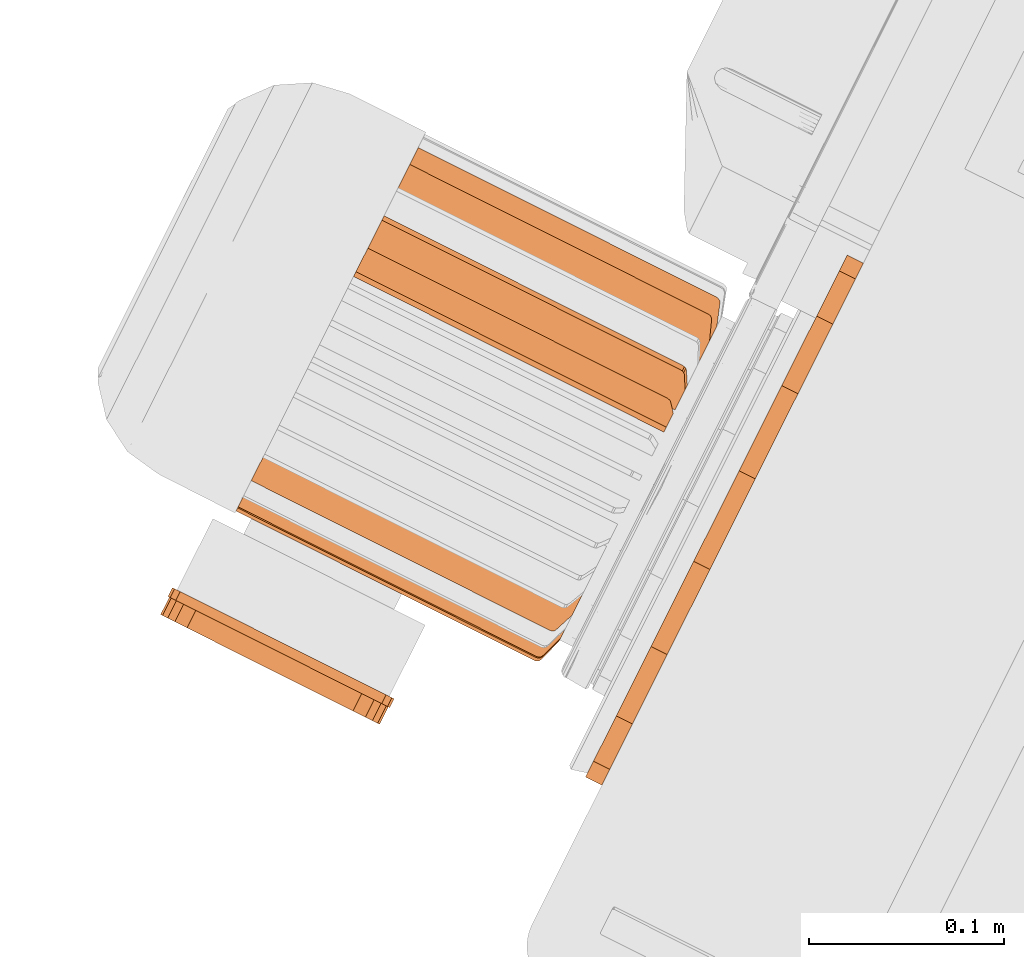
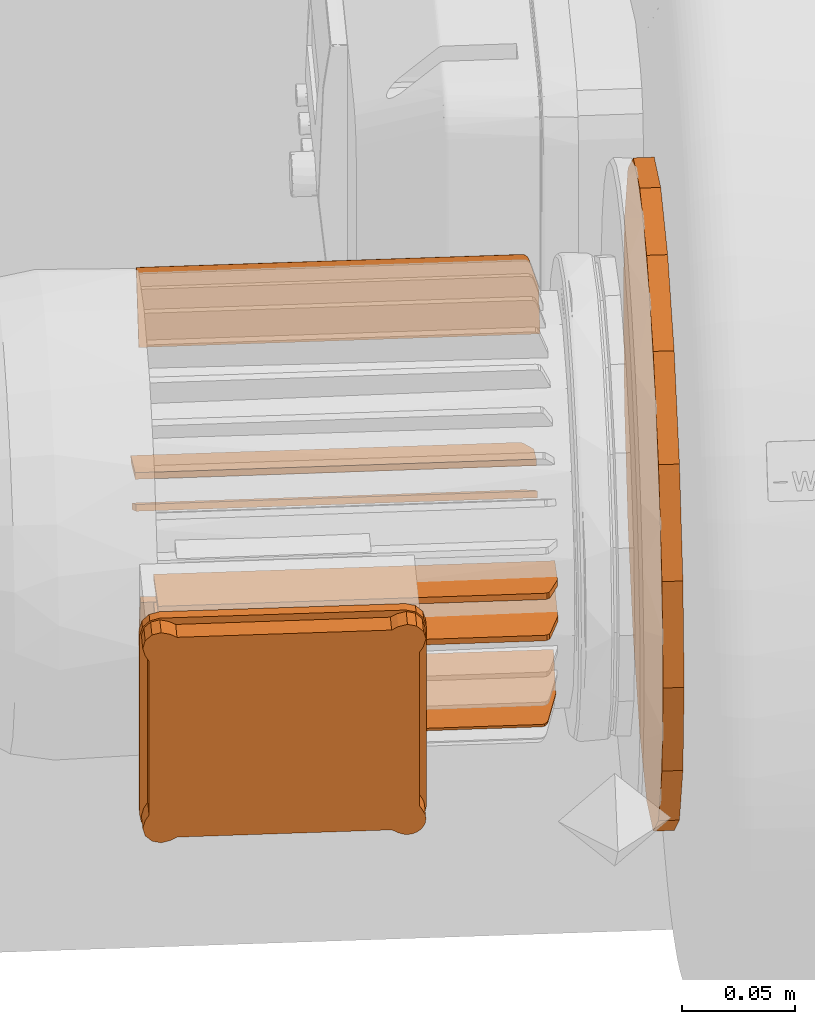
# One storey, part 180 of 206: 10 proxies.
"""IFC2X3 building model written with IfcOpenShell, lengths in metres."""

from ifc_helpers import new_model, si_unit, derived_unit, direction, frame, origin, place, context, subcontext, project, spatial, faceted_brep, source, transform, mapped, material, type_object, type_shapes, element, save


model = new_model("IFC2X3")

# Units and contexts
model_context = context("Model", 3, precision=5.2338327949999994e-05, world=origin(), true_north=direction((0.0, 1.0)))
body_context = subcontext(model_context, "Body", "Model", "MODEL_VIEW")
ifc_project = project(units=[si_unit("LENGTHUNIT", "METRE"), si_unit("AREAUNIT", "SQUARE_METRE"), si_unit("VOLUMEUNIT", "CUBIC_METRE"), si_unit("MASSUNIT", "GRAM", prefix="KILO"), si_unit("PLANEANGLEUNIT", "RADIAN"), derived_unit("THERMALTRANSMITTANCEUNIT", [(si_unit("MASSUNIT", "GRAM", prefix="KILO"), 1), (si_unit("THERMODYNAMICTEMPERATUREUNIT", "KELVIN"), -1), (si_unit("TIMEUNIT", "SECOND"), -3)])], contexts=[model_context])

# Site, building, storey
site_placement = place(None, frame((0.0, 0.0, 0.0), z_axis=(0.0, 0.0, 1.0), x_axis=(0.8939966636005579, -0.4480736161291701, 0.0)))
site = spatial("IfcSite", under=ifc_project, at=site_placement, Name="Default", CompositionType="ELEMENT")
building_placement = place(site_placement, origin())
building = spatial("IfcBuilding", under=site, at=building_placement, CompositionType="ELEMENT")
storey_placement = place(building_placement, origin())
storey = spatial("IfcBuildingStorey", under=building, at=storey_placement, Name="Erdgeschoss", CompositionType="ELEMENT", Elevation=0.0)

# Proxies
ifc_material_1 = material(Name="IfcSurfaceStyle #623543")
building_element_proxy_type_1 = type_object("IfcBuildingElementProxyType", Name="BuildingElementProxy 90:BuildingElementProxy 90", PredefinedType="NOTDEFINED", material=ifc_material_1)
shared_shape_1 = source(origin(), body_context, "Body", "Brep", [
    faceted_brep([(21.308483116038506, 4.126495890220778, 0.6885000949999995), (21.308483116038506, 4.10553544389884, 0.6885000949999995), (21.308483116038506, 4.126495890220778, 0.6855000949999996), (21.308483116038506, 4.10553544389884, 0.6855000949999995), (21.304532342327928, 4.09321407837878, 0.688500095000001), (21.301675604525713, 4.0911300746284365, 0.6885000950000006), (21.130911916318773, 4.126495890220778, 0.6885000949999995), (21.130911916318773, 4.0911300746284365, 0.6885000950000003), (21.302899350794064, 4.091391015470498, 0.6885000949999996), (21.303910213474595, 4.0921284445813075, 0.6885000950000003), (21.130911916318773, 4.126495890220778, 0.6855000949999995), (21.130911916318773, 4.0911300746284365, 0.6855000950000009), (21.301675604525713, 4.091130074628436, 0.6855000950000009), (21.302899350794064, 4.091391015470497, 0.685500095), (21.303910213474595, 4.0921284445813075, 0.6855000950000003), (21.304532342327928, 4.0932140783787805, 0.6855000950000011)], [[[0, 1, 2]], [[2, 1, 3]], [[4, 1, 5]], [[5, 1, 0]], [[5, 0, 6]], [[6, 7, 5]], [[5, 8, 4]], [[4, 8, 9]], [[0, 2, 6]], [[6, 2, 10]], [[7, 6, 11]], [[11, 6, 10]], [[7, 11, 5]], [[5, 11, 12]], [[12, 13, 5]], [[5, 13, 8]], [[13, 14, 8]], [[8, 14, 9]], [[14, 15, 9]], [[9, 15, 4]], [[3, 1, 15]], [[15, 1, 4]], [[10, 2, 12]], [[12, 2, 3]], [[12, 3, 15]], [[14, 13, 15]], [[15, 13, 12]], [[12, 11, 10]]]),
])
type_shapes(building_element_proxy_type_1, [shared_shape_1])
proxy_1_placement = place(storey_placement, origin())
element("IfcBuildingElementProxy", 1, at=proxy_1_placement, inside=storey, type_object=building_element_proxy_type_1, material=ifc_material_1, Name="BuildingElementProxy 90", context=body_context, shape_type="MappedRepresentation", body=[
    mapped(shared_shape_1, transform((0.0, 0.0, 0.0), scale=1.0)),
])
building_element_proxy_type_2 = type_object("IfcBuildingElementProxyType", Name="BuildingElementProxy 94:BuildingElementProxy 94", PredefinedType="NOTDEFINED", material=ifc_material_1)
shared_shape_2 = source(origin(), body_context, "Body", "Brep", [
    faceted_brep([(21.233208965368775, 4.026458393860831, 0.7411882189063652), (21.233208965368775, 4.0364583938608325, 0.7411882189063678), (21.230272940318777, 4.026458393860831, 0.7394931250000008), (21.230272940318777, 4.03645839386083, 0.7394931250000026), (21.23728758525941, 4.026458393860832, 0.7422810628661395), (21.23728758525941, 4.036458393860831, 0.7422810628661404), (21.24136619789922, 4.026458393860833, 0.7411881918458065), (21.241366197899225, 4.036458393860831, 0.7411881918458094), (21.24435195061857, 4.026458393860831, 0.7382024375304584), (21.244351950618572, 4.03645839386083, 0.7382024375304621), (21.24544481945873, 4.026458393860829, 0.7341238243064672), (21.24544481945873, 4.0364583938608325, 0.7341238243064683), (21.24435197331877, 4.026458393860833, 0.7300452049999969), (21.24435197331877, 4.036458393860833, 0.7300452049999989), (21.242656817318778, 4.026458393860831, 0.727109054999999), (21.242656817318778, 4.03645839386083, 0.7271090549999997), (21.242656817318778, 4.026458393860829, 0.6441384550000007), (21.242656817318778, 4.03645839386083, 0.6441384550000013), (21.24435197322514, 4.026458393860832, 0.6412024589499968), (21.244351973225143, 4.036458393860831, 0.6412024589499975), (21.24516691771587, 4.026458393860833, 0.6392350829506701), (21.24516691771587, 4.0364583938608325, 0.6392350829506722), (21.245444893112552, 4.026458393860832, 0.6371238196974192), (21.245444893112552, 4.036458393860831, 0.6371238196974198), (21.2451669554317, 4.026458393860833, 0.6350125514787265), (21.245166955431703, 4.0364583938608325, 0.6350125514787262), (21.244352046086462, 4.03645839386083, 0.6330451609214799), (21.24435204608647, 4.026458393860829, 0.6330451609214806), (21.24305570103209, 4.026458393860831, 0.6313557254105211), (21.24305570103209, 4.036458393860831, 0.6313557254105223), (21.241366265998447, 4.026458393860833, 0.6300593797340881), (21.241366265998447, 4.036458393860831, 0.6300593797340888), (21.239398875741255, 4.036458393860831, 0.6292444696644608), (21.239398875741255, 4.026458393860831, 0.6292444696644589), (21.237287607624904, 4.026458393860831, 0.6289665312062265), (21.237287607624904, 4.036458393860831, 0.6289665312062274), (21.235176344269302, 4.026458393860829, 0.6292445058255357), (21.235176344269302, 4.036458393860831, 0.6292445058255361), (21.233208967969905, 4.026458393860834, 0.6300594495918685), (21.233208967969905, 4.036458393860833, 0.6300594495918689), (21.23027288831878, 4.026458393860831, 0.6317545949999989), (21.23027288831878, 4.036458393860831, 0.6317545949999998), (21.135302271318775, 4.026458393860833, 0.6317545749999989), (21.135302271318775, 4.036458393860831, 0.6317545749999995), (21.132366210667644, 4.026458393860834, 0.63005944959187), (21.132366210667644, 4.036458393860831, 0.6300594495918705), (21.12828759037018, 4.026458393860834, 0.6289665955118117), (21.128287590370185, 4.036458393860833, 0.6289665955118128), (21.124208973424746, 4.026458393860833, 0.6300594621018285), (21.12420897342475, 4.0364583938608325, 0.6300594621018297), (21.12122321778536, 4.026458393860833, 0.6330452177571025), (21.12122321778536, 4.036458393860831, 0.6330452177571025), (21.120130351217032, 4.026458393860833, 0.6371238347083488), (21.12013035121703, 4.036458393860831, 0.6371238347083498), (21.121223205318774, 4.026458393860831, 0.6412024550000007), (21.121223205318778, 4.03645839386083, 0.6412024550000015), (21.12291835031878, 4.026458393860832, 0.644138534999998), (21.12291835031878, 4.036458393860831, 0.6441385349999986), (21.12291835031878, 4.026458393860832, 0.7271091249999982), (21.12291835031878, 4.036458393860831, 0.7271091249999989), (21.12122320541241, 4.026458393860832, 0.7300452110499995), (21.12122320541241, 4.0364583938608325, 0.7300452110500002), (21.120130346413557, 4.026458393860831, 0.7341238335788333), (21.12013034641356, 4.036458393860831, 0.734123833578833), (21.12122321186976, 4.026458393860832, 0.7382024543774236), (21.121223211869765, 4.036458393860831, 0.7382024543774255), (21.12420896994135, 4.026458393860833, 0.7411882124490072), (21.124208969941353, 4.0364583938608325, 0.7411882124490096), (21.12828759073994, 4.026458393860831, 0.7422810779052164), (21.128287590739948, 4.036458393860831, 0.7422810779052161), (21.132366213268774, 4.026458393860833, 0.7411882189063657), (21.132366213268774, 4.036458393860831, 0.7411882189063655), (21.135302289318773, 4.026458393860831, 0.7394930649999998), (21.135302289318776, 4.036458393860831, 0.7394930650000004)], [[[0, 1, 2]], [[2, 1, 3]], [[0, 4, 1]], [[1, 4, 5]], [[4, 6, 5]], [[5, 6, 7]], [[6, 8, 7]], [[7, 8, 9]], [[8, 10, 9]], [[9, 10, 11]], [[10, 12, 11]], [[11, 12, 13]], [[14, 15, 12]], [[12, 15, 13]], [[16, 17, 14]], [[14, 17, 15]], [[18, 19, 16]], [[16, 19, 17]], [[18, 20, 19]], [[19, 20, 21]], [[20, 22, 21]], [[21, 22, 23]], [[22, 24, 23]], [[23, 24, 25]], [[25, 24, 26]], [[26, 24, 27]], [[26, 27, 28]], [[26, 28, 29]], [[29, 28, 30]], [[29, 30, 31]], [[31, 30, 32]], [[30, 33, 32]], [[32, 33, 34]], [[32, 34, 35]], [[35, 34, 36]], [[35, 36, 37]], [[37, 36, 38]], [[37, 38, 39]], [[40, 41, 38]], [[38, 41, 39]], [[42, 43, 40]], [[40, 43, 41]], [[44, 45, 42]], [[42, 45, 43]], [[44, 46, 45]], [[45, 46, 47]], [[46, 48, 47]], [[47, 48, 49]], [[48, 50, 49]], [[49, 50, 51]], [[50, 52, 51]], [[51, 52, 53]], [[52, 54, 53]], [[53, 54, 55]], [[56, 57, 54]], [[54, 57, 55]], [[58, 59, 56]], [[56, 59, 57]], [[60, 61, 58]], [[58, 61, 59]], [[60, 62, 61]], [[61, 62, 63]], [[62, 64, 63]], [[63, 64, 65]], [[64, 66, 65]], [[65, 66, 67]], [[66, 68, 67]], [[67, 68, 69]], [[68, 70, 69]], [[69, 70, 71]], [[72, 73, 70]], [[70, 73, 71]], [[2, 3, 72]], [[72, 3, 73]], [[20, 18, 38]], [[38, 18, 16]], [[38, 16, 40]], [[40, 16, 14]], [[40, 14, 2]], [[2, 14, 12]], [[2, 12, 0]], [[0, 12, 8]], [[0, 8, 6]], [[2, 72, 40]], [[40, 72, 42]], [[66, 64, 70]], [[70, 64, 60]], [[70, 60, 72]], [[72, 60, 58]], [[72, 58, 56]], [[70, 68, 66]], [[64, 62, 60]], [[72, 56, 42]], [[42, 56, 54]], [[42, 54, 44]], [[44, 54, 52]], [[44, 52, 50]], [[50, 48, 44]], [[44, 48, 46]], [[34, 33, 36]], [[36, 33, 30]], [[36, 30, 38]], [[38, 30, 28]], [[38, 28, 27]], [[27, 24, 38]], [[38, 24, 22]], [[38, 22, 20]], [[12, 10, 8]], [[6, 4, 0]], [[13, 15, 3]], [[3, 15, 41]], [[3, 41, 73]], [[73, 41, 43]], [[73, 43, 57]], [[57, 43, 55]], [[3, 1, 13]], [[13, 1, 9]], [[13, 9, 11]], [[5, 7, 1]], [[1, 7, 9]], [[15, 17, 41]], [[41, 17, 39]], [[17, 19, 39]], [[39, 19, 21]], [[39, 21, 23]], [[23, 25, 39]], [[39, 25, 26]], [[39, 26, 29]], [[29, 31, 39]], [[39, 31, 37]], [[31, 32, 37]], [[37, 32, 35]], [[43, 45, 55]], [[55, 45, 53]], [[47, 49, 45]], [[45, 49, 51]], [[45, 51, 53]], [[57, 59, 73]], [[73, 59, 61]], [[73, 61, 71]], [[71, 61, 65]], [[71, 65, 67]], [[61, 63, 65]], [[67, 69, 71]]]),
])
type_shapes(building_element_proxy_type_2, [shared_shape_2])
proxy_2_placement = place(storey_placement, origin())
element("IfcBuildingElementProxy", 2, at=proxy_2_placement, inside=storey, type_object=building_element_proxy_type_2, material=ifc_material_1, Name="BuildingElementProxy 94", context=body_context, shape_type="MappedRepresentation", body=[
    mapped(shared_shape_2, transform((0.0, 0.0, 0.0), scale=1.0)),
])
building_element_proxy_type_3 = type_object("IfcBuildingElementProxyType", Name="BuildingElementProxy 96:BuildingElementProxy 96", PredefinedType="NOTDEFINED", material=ifc_material_1)
shared_shape_3 = source(origin(), body_context, "Body", "Brep", [
    faceted_brep([(21.308483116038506, 4.2253027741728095, 0.6194794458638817), (21.308483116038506, 4.233323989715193, 0.6001145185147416), (21.308483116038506, 4.228074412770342, 0.6206274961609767), (21.308483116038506, 4.236095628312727, 0.6012625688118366), (21.304532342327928, 4.238039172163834, 0.5887310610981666), (21.301675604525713, 4.2388366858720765, 0.5868056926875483), (21.130911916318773, 4.2253027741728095, 0.6194794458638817), (21.130911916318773, 4.2388366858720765, 0.5868056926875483), (21.302899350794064, 4.238736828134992, 0.5870467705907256), (21.303910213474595, 4.238454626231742, 0.5877280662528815), (21.130911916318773, 4.228074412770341, 0.6206274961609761), (21.130911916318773, 4.24160832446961, 0.5879537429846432), (21.301675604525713, 4.24160832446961, 0.5879537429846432), (21.302899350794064, 4.241508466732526, 0.5881948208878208), (21.303910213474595, 4.241226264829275, 0.5888761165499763), (21.304532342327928, 4.240810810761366, 0.5898791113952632)], [[[0, 1, 2]], [[2, 1, 3]], [[4, 1, 5]], [[5, 1, 0]], [[5, 0, 6]], [[6, 7, 5]], [[5, 8, 4]], [[4, 8, 9]], [[0, 2, 6]], [[6, 2, 10]], [[7, 6, 11]], [[11, 6, 10]], [[7, 11, 5]], [[5, 11, 12]], [[12, 13, 5]], [[5, 13, 8]], [[13, 14, 8]], [[8, 14, 9]], [[14, 15, 9]], [[9, 15, 4]], [[3, 1, 15]], [[15, 1, 4]], [[10, 2, 12]], [[12, 2, 3]], [[12, 3, 15]], [[14, 13, 15]], [[15, 13, 12]], [[12, 11, 10]]]),
])
type_shapes(building_element_proxy_type_3, [shared_shape_3])
proxy_3_placement = place(storey_placement, origin())
element("IfcBuildingElementProxy", 3, at=proxy_3_placement, inside=storey, type_object=building_element_proxy_type_3, material=ifc_material_1, Name="BuildingElementProxy 96", context=body_context, shape_type="MappedRepresentation", body=[
    mapped(shared_shape_3, transform((0.0, 0.0, 0.0), scale=1.0)),
])
building_element_proxy_type_4 = type_object("IfcBuildingElementProxyType", Name="BuildingElementProxy 101:BuildingElementProxy 101", PredefinedType="NOTDEFINED", material=ifc_material_1)
shared_shape_4 = source(origin(), body_context, "Body", "Brep", [
    faceted_brep([(21.308483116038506, 4.240463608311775, 0.7464171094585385), (21.308483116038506, 4.252108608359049, 0.7638450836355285), (21.308483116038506, 4.237969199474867, 0.7480838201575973), (21.308483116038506, 4.249614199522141, 0.7655117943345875), (21.304532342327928, 4.258953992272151, 0.77408992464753), (21.301675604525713, 4.260111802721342, 0.775822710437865), (21.130911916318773, 4.240463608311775, 0.7464171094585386), (21.130911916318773, 4.260111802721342, 0.7758227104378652), (21.302899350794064, 4.259966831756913, 0.7756057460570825), (21.303910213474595, 4.259557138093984, 0.7749925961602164), (21.130911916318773, 4.237969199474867, 0.7480838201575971), (21.130911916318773, 4.257617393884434, 0.7774894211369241), (21.301675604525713, 4.257617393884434, 0.7774894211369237), (21.302899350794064, 4.257472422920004, 0.7772724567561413), (21.303910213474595, 4.257062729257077, 0.7766593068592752), (21.304532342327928, 4.256459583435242, 0.7757566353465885)], [[[0, 1, 2]], [[2, 1, 3]], [[4, 1, 5]], [[5, 1, 0]], [[5, 0, 6]], [[6, 7, 5]], [[5, 8, 4]], [[4, 8, 9]], [[0, 2, 6]], [[6, 2, 10]], [[7, 6, 11]], [[11, 6, 10]], [[7, 11, 5]], [[5, 11, 12]], [[12, 13, 5]], [[5, 13, 8]], [[13, 14, 8]], [[8, 14, 9]], [[14, 15, 9]], [[9, 15, 4]], [[3, 1, 15]], [[15, 1, 4]], [[10, 2, 12]], [[12, 2, 3]], [[12, 3, 15]], [[14, 13, 15]], [[15, 13, 12]], [[12, 11, 10]]]),
])
type_shapes(building_element_proxy_type_4, [shared_shape_4])
proxy_4_placement = place(storey_placement, origin())
element("IfcBuildingElementProxy", 4, at=proxy_4_placement, inside=storey, type_object=building_element_proxy_type_4, material=ifc_material_1, Name="BuildingElementProxy 101", context=body_context, shape_type="MappedRepresentation", body=[
    mapped(shared_shape_4, transform((0.0, 0.0, 0.0), scale=1.0)),
])
building_element_proxy_type_5 = type_object("IfcBuildingElementProxyType", Name="BuildingElementProxy 102:BuildingElementProxy 102", PredefinedType="NOTDEFINED", material=ifc_material_1)
shared_shape_5 = source(origin(), body_context, "Body", "Brep", [
    faceted_brep([(21.237175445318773, 4.036458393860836, 0.7430104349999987), (21.24167280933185, 4.0364583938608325, 0.741802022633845), (21.237175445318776, 4.038458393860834, 0.7430104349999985), (21.241672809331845, 4.041458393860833, 0.7418020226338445), (21.237175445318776, 4.041458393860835, 0.7430104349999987), (21.24496572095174, 4.0364583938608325, 0.7385091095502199), (21.24496572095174, 4.041458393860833, 0.7385091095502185), (21.24617413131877, 4.036458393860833, 0.7340117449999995), (21.24617413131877, 4.041458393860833, 0.734011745), (21.24628758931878, 4.036458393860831, 0.6371224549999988), (21.24628758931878, 4.041458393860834, 0.6371224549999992), (21.245592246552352, 4.036458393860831, 0.6336678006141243), (21.24559224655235, 4.041458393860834, 0.6336678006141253), (21.243607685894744, 4.036458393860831, 0.6307558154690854), (21.243607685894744, 4.041458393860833, 0.6307558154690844), (21.240646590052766, 4.036458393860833, 0.6288453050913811), (21.240646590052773, 4.041458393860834, 0.6288453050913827), (21.237175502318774, 4.036458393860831, 0.6282372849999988), (21.23717550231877, 4.041458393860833, 0.6282372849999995), (21.128286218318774, 4.0364583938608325, 0.6281238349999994), (21.128286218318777, 4.041458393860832, 0.6281238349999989), (21.124831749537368, 4.036458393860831, 0.6288194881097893), (21.124831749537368, 4.041458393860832, 0.6288194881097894), (21.12191992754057, 4.036458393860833, 0.6308040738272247), (21.12191992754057, 4.041458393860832, 0.6308040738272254), (21.120009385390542, 4.036458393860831, 0.6337650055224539), (21.120009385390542, 4.041458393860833, 0.6337650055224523), (21.11940104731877, 4.036458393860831, 0.6372359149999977), (21.119401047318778, 4.041458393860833, 0.637235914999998), (21.119401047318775, 4.036458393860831, 0.7340117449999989), (21.119401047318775, 4.041458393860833, 0.7340117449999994), (21.120584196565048, 4.0364583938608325, 0.7385027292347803), (21.120584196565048, 4.041458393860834, 0.7385027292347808), (21.12382649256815, 4.0364583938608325, 0.7418278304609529), (21.123826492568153, 4.041458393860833, 0.7418278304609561), (21.128286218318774, 4.0364583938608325, 0.7431238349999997), (21.128286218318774, 4.038958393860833, 0.7431238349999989), (21.128286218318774, 4.041458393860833, 0.7431238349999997)], [[[0, 1, 2]], [[2, 1, 3]], [[2, 3, 4]], [[1, 5, 3]], [[3, 5, 6]], [[5, 7, 6]], [[6, 7, 8]], [[9, 10, 7]], [[7, 10, 8]], [[9, 11, 10]], [[10, 11, 12]], [[11, 13, 12]], [[12, 13, 14]], [[13, 15, 14]], [[14, 15, 16]], [[15, 17, 16]], [[16, 17, 18]], [[19, 20, 17]], [[17, 20, 18]], [[19, 21, 20]], [[20, 21, 22]], [[21, 23, 22]], [[22, 23, 24]], [[23, 25, 24]], [[24, 25, 26]], [[25, 27, 26]], [[26, 27, 28]], [[29, 30, 27]], [[27, 30, 28]], [[29, 31, 30]], [[30, 31, 32]], [[31, 33, 32]], [[32, 33, 34]], [[35, 36, 33]], [[33, 36, 34]], [[36, 37, 34]], [[0, 2, 35]], [[35, 2, 36]], [[2, 4, 36]], [[36, 4, 37]], [[5, 1, 7]], [[7, 1, 0]], [[7, 0, 17]], [[17, 0, 35]], [[17, 35, 19]], [[19, 35, 29]], [[19, 29, 27]], [[35, 33, 31]], [[35, 31, 29]], [[27, 25, 19]], [[19, 25, 23]], [[19, 23, 21]], [[15, 13, 17]], [[17, 13, 11]], [[17, 11, 9]], [[9, 7, 17]], [[3, 8, 4]], [[4, 8, 18]], [[4, 18, 37]], [[37, 18, 20]], [[37, 20, 30]], [[30, 20, 28]], [[3, 6, 8]], [[8, 10, 18]], [[18, 10, 12]], [[18, 12, 14]], [[14, 16, 18]], [[22, 24, 20]], [[20, 24, 26]], [[20, 26, 28]], [[30, 32, 37]], [[37, 32, 34]]]),
])
type_shapes(building_element_proxy_type_5, [shared_shape_5])
proxy_5_placement = place(storey_placement, origin())
element("IfcBuildingElementProxy", 5, at=proxy_5_placement, inside=storey, type_object=building_element_proxy_type_5, material=ifc_material_1, Name="BuildingElementProxy 102", context=body_context, shape_type="MappedRepresentation", body=[
    mapped(shared_shape_5, transform((0.0, 0.0, 0.0), scale=1.0)),
])
building_element_proxy_type_6 = type_object("IfcBuildingElementProxyType", Name="BuildingElementProxy 103:BuildingElementProxy 103", PredefinedType="NOTDEFINED", material=ifc_material_1)
shared_shape_6 = source(origin(), body_context, "Body", "Brep", [
    faceted_brep([(21.308483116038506, 4.2583754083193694, 0.6454948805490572), (21.308483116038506, 4.275803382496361, 0.6338498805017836), (21.308483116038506, 4.260042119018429, 0.6479892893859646), (21.308483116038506, 4.2774700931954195, 0.6363442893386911), (21.304532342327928, 4.286048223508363, 0.6270044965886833), (21.301675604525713, 4.287781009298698, 0.6258466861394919), (21.130911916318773, 4.2583754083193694, 0.6454948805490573), (21.130911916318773, 4.287781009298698, 0.6258466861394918), (21.302899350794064, 4.287564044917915, 0.6259916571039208), (21.303910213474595, 4.286950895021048, 0.6264013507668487), (21.130911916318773, 4.260042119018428, 0.6479892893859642), (21.130911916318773, 4.2894477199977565, 0.6283410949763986), (21.301675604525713, 4.2894477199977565, 0.6283410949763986), (21.302899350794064, 4.289230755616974, 0.628486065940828), (21.303910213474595, 4.288617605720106, 0.6288957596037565), (21.304532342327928, 4.28771493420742, 0.6294989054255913)], [[[0, 1, 2]], [[2, 1, 3]], [[4, 1, 5]], [[5, 1, 0]], [[5, 0, 6]], [[6, 7, 5]], [[5, 8, 4]], [[4, 8, 9]], [[0, 2, 6]], [[6, 2, 10]], [[7, 6, 11]], [[11, 6, 10]], [[7, 11, 5]], [[5, 11, 12]], [[12, 13, 5]], [[5, 13, 8]], [[13, 14, 8]], [[8, 14, 9]], [[14, 15, 9]], [[9, 15, 4]], [[3, 1, 15]], [[15, 1, 4]], [[10, 2, 12]], [[12, 2, 3]], [[12, 3, 15]], [[14, 13, 15]], [[15, 13, 12]], [[12, 11, 10]]]),
])
type_shapes(building_element_proxy_type_6, [shared_shape_6])
proxy_6_placement = place(storey_placement, origin())
element("IfcBuildingElementProxy", 6, at=proxy_6_placement, inside=storey, type_object=building_element_proxy_type_6, material=ifc_material_1, Name="BuildingElementProxy 103", context=body_context, shape_type="MappedRepresentation", body=[
    mapped(shared_shape_6, transform((0.0, 0.0, 0.0), scale=1.0)),
])
building_element_proxy_type_7 = type_object("IfcBuildingElementProxyType", Name="BuildingElementProxy 105:BuildingElementProxy 105", PredefinedType="NOTDEFINED", material=ifc_material_1)
shared_shape_7 = source(origin(), body_context, "Body", "Brep", [
    faceted_brep([(21.308483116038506, 4.128180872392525, 0.7026080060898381), (21.308483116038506, 4.107623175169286, 0.7066971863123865), (21.308483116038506, 4.127595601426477, 0.6996656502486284), (21.308483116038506, 4.1070379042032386, 0.7037548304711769), (21.304532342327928, 4.095538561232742, 0.7091009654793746), (21.301675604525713, 4.093494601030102, 0.7095075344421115), (21.130911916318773, 4.128180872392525, 0.7026080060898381), (21.130911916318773, 4.093494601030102, 0.7095075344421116), (21.302899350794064, 4.093750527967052, 0.7094566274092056), (21.303910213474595, 4.094473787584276, 0.7093127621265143), (21.130911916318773, 4.127595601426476, 0.6996656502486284), (21.130911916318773, 4.092909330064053, 0.7065651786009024), (21.302899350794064, 4.093165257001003, 0.7065142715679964), (21.303910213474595, 4.093888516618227, 0.7063704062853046), (21.304532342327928, 4.094953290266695, 0.7061586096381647), (21.301675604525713, 4.092909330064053, 0.7065651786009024), (21.301675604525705, 4.093104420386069, 0.7075459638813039)], [[[0, 1, 2]], [[2, 1, 3]], [[4, 1, 5]], [[5, 1, 0]], [[5, 0, 6]], [[6, 7, 5]], [[5, 8, 4]], [[4, 8, 9]], [[0, 2, 6]], [[6, 2, 10]], [[7, 6, 11]], [[11, 6, 10]], [[12, 13, 8]], [[8, 13, 9]], [[13, 14, 9]], [[9, 14, 4]], [[3, 1, 14]], [[14, 1, 4]], [[10, 2, 15]], [[15, 2, 3]], [[15, 3, 14]], [[13, 12, 14]], [[14, 12, 15]], [[15, 11, 10]], [[5, 7, 16]], [[16, 7, 11]], [[16, 11, 15]], [[15, 12, 16]], [[16, 12, 8]], [[16, 8, 5]]]),
])
type_shapes(building_element_proxy_type_7, [shared_shape_7])
proxy_7_placement = place(storey_placement, origin())
element("IfcBuildingElementProxy", 7, at=proxy_7_placement, inside=storey, type_object=building_element_proxy_type_7, material=ifc_material_1, Name="BuildingElementProxy 105", context=body_context, shape_type="MappedRepresentation", body=[
    mapped(shared_shape_7, transform((0.0, 0.0, 0.0), scale=1.0)),
])
building_element_proxy_type_8 = type_object("IfcBuildingElementProxyType", Name="BuildingElementProxy 111:BuildingElementProxy 111", PredefinedType="NOTDEFINED", material=ifc_material_1)
shared_shape_8 = source(origin(), body_context, "Body", "Brep", [
    faceted_brep([(21.308483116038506, 4.265330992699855, 0.6578840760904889), (21.308483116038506, 4.284695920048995, 0.6498628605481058), (21.308483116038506, 4.26647904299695, 0.6606557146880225), (21.308483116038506, 4.28584397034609, 0.6526344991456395), (21.304532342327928, 4.296079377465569, 0.6451476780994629), (21.301675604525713, 4.298004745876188, 0.6443501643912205), (21.130911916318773, 4.265330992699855, 0.6578840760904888), (21.130911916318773, 4.298004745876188, 0.6443501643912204), (21.302899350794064, 4.29776366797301, 0.6444500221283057), (21.303910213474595, 4.2970823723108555, 0.6447322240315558), (21.130911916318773, 4.26647904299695, 0.660655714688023), (21.130911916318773, 4.299152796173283, 0.6471218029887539), (21.301675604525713, 4.299152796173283, 0.647121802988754), (21.302899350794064, 4.298911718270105, 0.6472216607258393), (21.303910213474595, 4.298230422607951, 0.6475038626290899), (21.304532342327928, 4.297227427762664, 0.6479193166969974)], [[[0, 1, 2]], [[2, 1, 3]], [[4, 1, 5]], [[5, 1, 0]], [[5, 0, 6]], [[6, 7, 5]], [[5, 8, 4]], [[4, 8, 9]], [[0, 2, 6]], [[6, 2, 10]], [[7, 6, 11]], [[11, 6, 10]], [[7, 11, 5]], [[5, 11, 12]], [[12, 13, 5]], [[5, 13, 8]], [[13, 14, 8]], [[8, 14, 9]], [[14, 15, 9]], [[9, 15, 4]], [[3, 1, 15]], [[15, 1, 4]], [[10, 2, 12]], [[12, 2, 3]], [[12, 3, 15]], [[14, 13, 15]], [[15, 13, 12]], [[12, 11, 10]]]),
])
type_shapes(building_element_proxy_type_8, [shared_shape_8])
proxy_8_placement = place(storey_placement, origin())
element("IfcBuildingElementProxy", 8, at=proxy_8_placement, inside=storey, type_object=building_element_proxy_type_8, material=ifc_material_1, Name="BuildingElementProxy 111", context=body_context, shape_type="MappedRepresentation", body=[
    mapped(shared_shape_8, transform((0.0, 0.0, 0.0), scale=1.0)),
])
building_element_proxy_type_9 = type_object("IfcBuildingElementProxyType", Name="BuildingElementProxy 113:BuildingElementProxy 113", PredefinedType="NOTDEFINED", material=ifc_material_1)
shared_shape_9 = source(origin(), body_context, "Body", "Brep", [
    faceted_brep([(21.308483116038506, 4.137874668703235, 0.6479892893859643), (21.308483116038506, 4.120446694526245, 0.6363442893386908), (21.308483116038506, 4.139541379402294, 0.6454948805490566), (21.308483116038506, 4.122113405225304, 0.633849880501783), (21.304532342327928, 4.1102018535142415, 0.6294989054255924), (21.301675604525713, 4.108469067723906, 0.6283410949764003), (21.130911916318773, 4.137874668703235, 0.6479892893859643), (21.130911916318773, 4.108469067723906, 0.6283410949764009), (21.302899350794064, 4.10868603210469, 0.6284860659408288), (21.303910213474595, 4.109299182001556, 0.6288957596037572), (21.130911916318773, 4.139541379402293, 0.6454948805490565), (21.130911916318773, 4.110135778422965, 0.6258466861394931), (21.301675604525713, 4.110135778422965, 0.6258466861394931), (21.302899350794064, 4.110352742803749, 0.625991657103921), (21.303910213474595, 4.110965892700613, 0.6264013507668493), (21.304532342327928, 4.1118685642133, 0.6270044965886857)], [[[0, 1, 2]], [[2, 1, 3]], [[4, 1, 5]], [[5, 1, 0]], [[5, 0, 6]], [[6, 7, 5]], [[5, 8, 4]], [[4, 8, 9]], [[0, 2, 6]], [[6, 2, 10]], [[7, 6, 11]], [[11, 6, 10]], [[7, 11, 5]], [[5, 11, 12]], [[12, 13, 5]], [[5, 13, 8]], [[13, 14, 8]], [[8, 14, 9]], [[14, 15, 9]], [[9, 15, 4]], [[3, 1, 15]], [[15, 1, 4]], [[10, 2, 12]], [[12, 2, 3]], [[12, 3, 15]], [[14, 13, 15]], [[15, 13, 12]], [[12, 11, 10]]]),
])
type_shapes(building_element_proxy_type_9, [shared_shape_9])
proxy_9_placement = place(storey_placement, origin())
element("IfcBuildingElementProxy", 9, at=proxy_9_placement, inside=storey, type_object=building_element_proxy_type_9, material=ifc_material_1, Name="BuildingElementProxy 113", context=body_context, shape_type="MappedRepresentation", body=[
    mapped(shared_shape_9, transform((0.0, 0.0, 0.0), scale=1.0)),
])
ifc_material_2 = material(Name="IfcSurfaceStyle #626231")
building_element_proxy_type_10 = type_object("IfcBuildingElementProxyType", Name="BuildingElementProxy 117:BuildingElementProxy 117", PredefinedType="NOTDEFINED", material=ifc_material_2)
shared_shape_10 = source(origin(), body_context, "Body", "Brep", [
    faceted_brep([(21.36104787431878, 4.224888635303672, 0.8340577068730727), (21.36104787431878, 4.173028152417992, 0.8340577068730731), (21.36104787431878, 4.273621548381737, 0.8163203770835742), (21.36104787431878, 4.124295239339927, 0.8163203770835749), (21.36104787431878, 4.313348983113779, 0.7829851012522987), (21.36104787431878, 4.084567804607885, 0.7829851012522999), (21.36104787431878, 4.33927922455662, 0.738072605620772), (21.36104787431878, 4.058637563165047, 0.7380726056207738), (21.36104787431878, 4.348284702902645, 0.6869999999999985), (21.36104787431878, 4.049632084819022, 0.687), (21.36104787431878, 4.339279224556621, 0.6359273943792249), (21.36104787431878, 4.058637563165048, 0.6359273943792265), (21.36104787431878, 4.313348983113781, 0.5910148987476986), (21.36104787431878, 4.084567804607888, 0.5910148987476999), (21.36104787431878, 4.2736215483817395, 0.5576796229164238), (21.36104787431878, 4.124295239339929, 0.5576796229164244), (21.36104787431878, 4.2248886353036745, 0.5399422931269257), (21.36104787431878, 4.173028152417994, 0.539942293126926), (21.35174787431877, 4.058637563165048, 0.6359273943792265), (21.35174787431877, 4.049632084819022, 0.687), (21.35174787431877, 4.058637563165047, 0.7380726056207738), (21.35174787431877, 4.084567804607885, 0.7829851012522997), (21.35174787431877, 4.124295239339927, 0.8163203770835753), (21.35174787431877, 4.173028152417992, 0.8340577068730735), (21.35174787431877, 4.224888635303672, 0.8340577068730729), (21.35174787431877, 4.273621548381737, 0.8163203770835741), (21.35174787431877, 4.313348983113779, 0.7829851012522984), (21.35174787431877, 4.339279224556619, 0.7380726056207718), (21.35174787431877, 4.348284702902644, 0.6869999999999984), (21.35174787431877, 4.339279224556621, 0.6359273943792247), (21.35174787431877, 4.313348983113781, 0.5910148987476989), (21.35174787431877, 4.2736215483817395, 0.5576796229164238), (21.35174787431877, 4.2248886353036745, 0.5399422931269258), (21.35174787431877, 4.173028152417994, 0.539942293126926), (21.35174787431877, 4.124295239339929, 0.5576796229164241), (21.35174787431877, 4.084567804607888, 0.5910148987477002)], [[[0, 1, 2]], [[2, 1, 3]], [[2, 3, 4]], [[4, 3, 5]], [[4, 5, 6]], [[6, 5, 7]], [[6, 7, 8]], [[8, 7, 9]], [[8, 9, 10]], [[10, 9, 11]], [[10, 11, 12]], [[12, 11, 13]], [[12, 13, 14]], [[14, 13, 15]], [[14, 15, 16]], [[16, 15, 17]], [[18, 9, 19]], [[19, 9, 7]], [[19, 7, 20]], [[20, 7, 5]], [[20, 5, 21]], [[21, 5, 3]], [[21, 3, 22]], [[22, 3, 1]], [[22, 1, 23]], [[23, 1, 0]], [[23, 0, 24]], [[24, 0, 2]], [[24, 2, 25]], [[25, 2, 4]], [[25, 4, 26]], [[26, 4, 6]], [[26, 6, 27]], [[27, 6, 8]], [[27, 8, 28]], [[28, 8, 10]], [[28, 10, 29]], [[29, 10, 12]], [[29, 12, 30]], [[30, 12, 14]], [[30, 14, 31]], [[31, 14, 16]], [[31, 16, 32]], [[32, 16, 17]], [[32, 17, 33]], [[33, 17, 15]], [[33, 15, 34]], [[34, 15, 13]], [[34, 13, 35]], [[35, 13, 11]], [[35, 11, 18]], [[18, 11, 9]], [[23, 24, 22]], [[22, 24, 25]], [[22, 25, 21]], [[21, 25, 26]], [[21, 26, 20]], [[20, 26, 27]], [[20, 27, 19]], [[19, 27, 28]], [[19, 28, 18]], [[18, 28, 29]], [[18, 29, 35]], [[35, 29, 30]], [[35, 30, 34]], [[34, 30, 31]], [[34, 31, 33]], [[33, 31, 32]]]),
])
type_shapes(building_element_proxy_type_10, [shared_shape_10])
proxy_10_placement = place(storey_placement, origin())
element("IfcBuildingElementProxy", 10, at=proxy_10_placement, inside=storey, type_object=building_element_proxy_type_10, material=ifc_material_2, Name="BuildingElementProxy 117", context=body_context, shape_type="MappedRepresentation", body=[
    mapped(shared_shape_10, transform((0.0, 0.0, 0.0), scale=1.0)),
])

save(model, "model.ifc")
